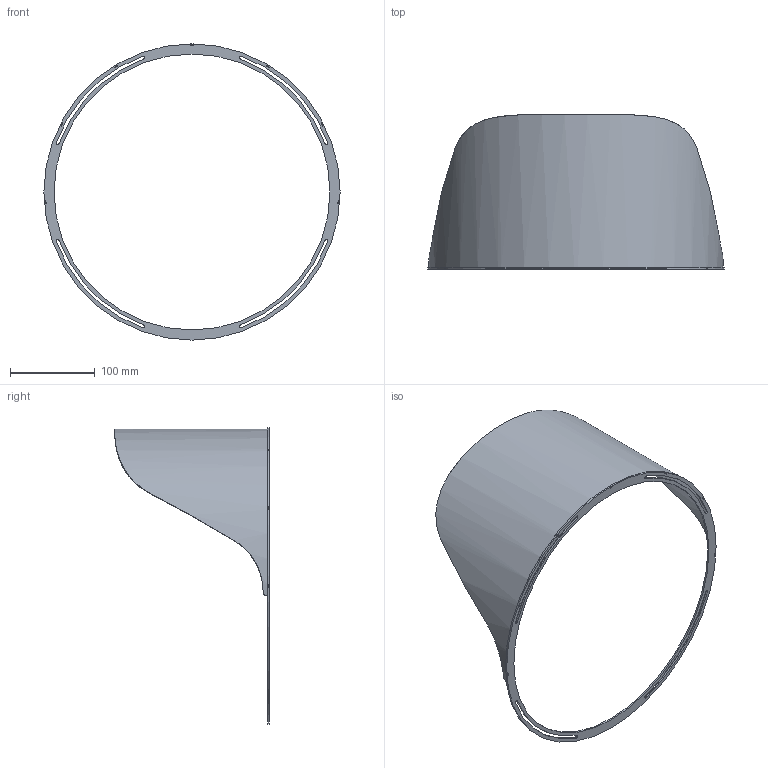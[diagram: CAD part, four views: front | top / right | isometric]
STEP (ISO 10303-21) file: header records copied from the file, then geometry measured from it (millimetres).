
FILE_DESCRIPTION(/* description */ ('Unknown'),/* implementation_level */ '2;1');
FILE_NAME(/* name */ 'Half TopHat - XL',/* time_stamp */ '2022-08-22T08:43:55+02:00',/* author */ ('Unknown'),/* organization */ ('Unknown'),/* preprocessor_version */ 'ST-DEVELOPER v18.102',/* originating_system */ 'Solid Edge',/* authorisation */ 'Unknown');
FILE_SCHEMA (('AUTOMOTIVE_DESIGN {1 0 10303 214 3 1 1}'));
Length unit declared in the file: millimetre
Products named in the file (1): 11431123 Half TopHat - XL
Bounding box: 349.2 x 182 x 349.2 mm (x, y, z)
Volume: 92194.7 mm3; surface area: 170423.1 mm2
Topology: 1 solids, 1 shells, 96 faces, 315 edges, 201 vertices
Faces by surface type: plane 54, cylinder 36, bspline 6
Full cylindrical faces by diameter (mm): 325.2 x1, 349.2 x1
Entity records: 4277 total; most frequent: CARTESIAN_POINT 1394, ORIENTED_EDGE 624, DIRECTION 596, EDGE_CURVE 312, AXIS2_PLACEMENT_3D 215, VERTEX_POINT 200, LINE 166, VECTOR 166
